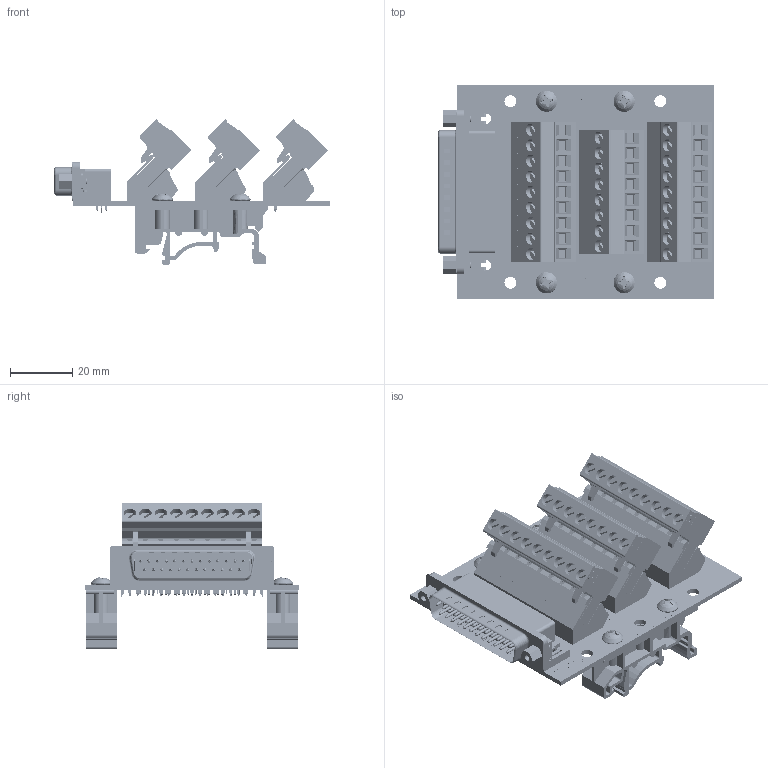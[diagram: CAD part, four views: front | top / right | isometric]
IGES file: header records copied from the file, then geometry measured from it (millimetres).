
Start section: SolidWorks IGES file using analytic representation for surfaces
Global section: file name: D:\Documents\Winford Engineering Jobs\BRKLD25\BRKLD25M\brkld25m-rw-din_rev_a.igs; native system: SolidWorks 2017; preprocessor: SolidWorks 2017; author: mudhf; date: 200729.235007; units: inch
Bounding box: 88.58 x 68.58 x 46.77 mm (x, y, z)
Surface area: 55678.4 mm2 (no closed solid volume)
Topology: 0 solids, 0 shells, 10082 faces, 68064 edges, 67922 vertices
Faces by surface type: bspline 7746, revolution 2336
